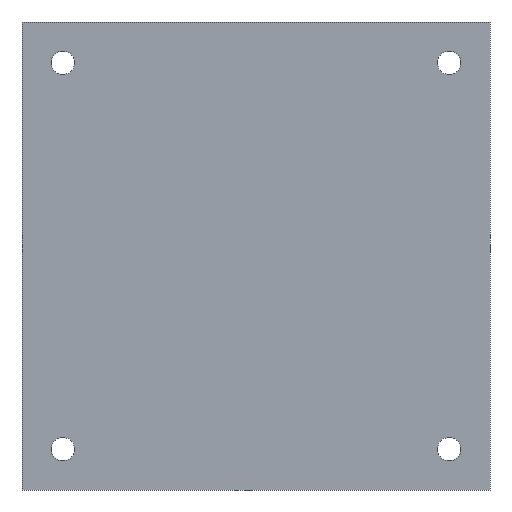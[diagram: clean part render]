
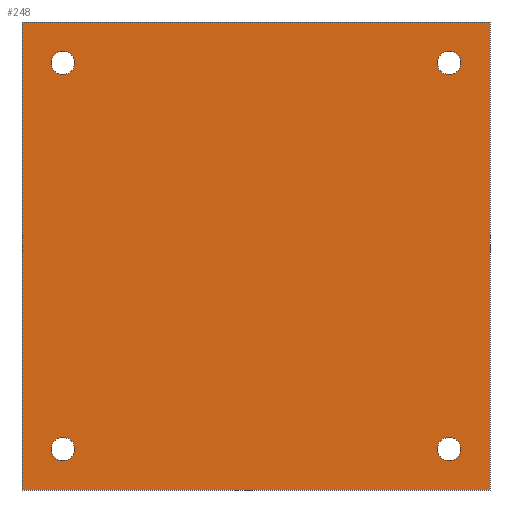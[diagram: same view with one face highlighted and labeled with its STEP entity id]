
A CAD part, front view. The second image highlights one B-rep face of the part: STEP entity #248.
In plain terms, the highlighted planar face has unit normal (0, -1, 0).
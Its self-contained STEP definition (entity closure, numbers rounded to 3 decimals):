
#1=CARTESIAN_POINT('',(-24.749,0.,24.749));
#2=DIRECTION('',(0.,-1.,0.));
#3=DIRECTION('',(1.,0.,0.));
#4=AXIS2_PLACEMENT_3D('',#1,#2,#3);
#6=CARTESIAN_POINT('',(-24.749,0.,24.749));
#7=DIRECTION('',(0.,-1.,0.));
#8=DIRECTION('',(-1.,0.,0.));
#9=AXIS2_PLACEMENT_3D('',#6,#7,#8);
#11=CARTESIAN_POINT('',(-24.749,0.,-24.749));
#12=DIRECTION('',(0.,-1.,0.));
#13=DIRECTION('',(1.,0.,0.));
#14=AXIS2_PLACEMENT_3D('',#11,#12,#13);
#16=CARTESIAN_POINT('',(-24.749,0.,-24.749));
#17=DIRECTION('',(0.,-1.,0.));
#18=DIRECTION('',(-1.,0.,0.));
#19=AXIS2_PLACEMENT_3D('',#16,#17,#18);
#21=CARTESIAN_POINT('',(24.749,0.,-24.749));
#22=DIRECTION('',(0.,-1.,0.));
#23=DIRECTION('',(1.,0.,0.));
#24=AXIS2_PLACEMENT_3D('',#21,#22,#23);
#26=CARTESIAN_POINT('',(24.749,0.,-24.749));
#27=DIRECTION('',(0.,-1.,0.));
#28=DIRECTION('',(-1.,0.,0.));
#29=AXIS2_PLACEMENT_3D('',#26,#27,#28);
#31=CARTESIAN_POINT('',(24.749,0.,24.749));
#32=DIRECTION('',(0.,-1.,0.));
#33=DIRECTION('',(1.,0.,0.));
#34=AXIS2_PLACEMENT_3D('',#31,#32,#33);
#36=CARTESIAN_POINT('',(24.749,0.,24.749));
#37=DIRECTION('',(0.,-1.,0.));
#38=DIRECTION('',(-1.,0.,0.));
#39=AXIS2_PLACEMENT_3D('',#36,#37,#38);
#41=DIRECTION('',(0.,0.,1.));
#42=VECTOR('',#41,60.);
#43=CARTESIAN_POINT('',(-30.,0.,-30.));
#44=LINE('',#43,#42);
#45=DIRECTION('',(1.,0.,0.));
#46=VECTOR('',#45,60.);
#47=CARTESIAN_POINT('',(-30.,0.,30.));
#48=LINE('',#47,#46);
#49=DIRECTION('',(0.,0.,-1.));
#50=VECTOR('',#49,60.);
#51=CARTESIAN_POINT('',(30.,0.,30.));
#52=LINE('',#51,#50);
#53=DIRECTION('',(-1.,0.,0.));
#54=VECTOR('',#53,60.);
#55=CARTESIAN_POINT('',(30.,0.,-30.));
#56=LINE('',#55,#54);
#161=CARTESIAN_POINT('',(-23.249,0.,24.749));
#162=CARTESIAN_POINT('',(-26.249,0.,24.749));
#163=VERTEX_POINT('',#161);
#164=VERTEX_POINT('',#162);
#165=CARTESIAN_POINT('',(-23.249,0.,-24.749));
#166=CARTESIAN_POINT('',(-26.249,0.,-24.749));
#167=VERTEX_POINT('',#165);
#168=VERTEX_POINT('',#166);
#169=CARTESIAN_POINT('',(26.249,0.,-24.749));
#170=CARTESIAN_POINT('',(23.249,0.,-24.749));
#171=VERTEX_POINT('',#169);
#172=VERTEX_POINT('',#170);
#173=CARTESIAN_POINT('',(26.249,0.,24.749));
#174=CARTESIAN_POINT('',(23.249,0.,24.749));
#175=VERTEX_POINT('',#173);
#176=VERTEX_POINT('',#174);
#177=CARTESIAN_POINT('',(-30.,0.,-30.));
#178=CARTESIAN_POINT('',(-30.,0.,30.));
#179=VERTEX_POINT('',#177);
#180=VERTEX_POINT('',#178);
#181=CARTESIAN_POINT('',(30.,0.,30.));
#182=VERTEX_POINT('',#181);
#183=CARTESIAN_POINT('',(30.,0.,-30.));
#184=VERTEX_POINT('',#183);
#209=CARTESIAN_POINT('',(0.,0.,0.));
#210=DIRECTION('',(0.,1.,0.));
#211=DIRECTION('',(1.,0.,0.));
#212=AXIS2_PLACEMENT_3D('',#209,#210,#211);
#213=PLANE('',#212);
#215=ORIENTED_EDGE('',*,*,#214,.T.);
#217=ORIENTED_EDGE('',*,*,#216,.T.);
#219=ORIENTED_EDGE('',*,*,#218,.T.);
#221=ORIENTED_EDGE('',*,*,#220,.T.);
#222=EDGE_LOOP('',(#215,#217,#219,#221));
#223=FACE_OUTER_BOUND('',#222,.F.);
#225=ORIENTED_EDGE('',*,*,#224,.T.);
#227=ORIENTED_EDGE('',*,*,#226,.T.);
#228=EDGE_LOOP('',(#225,#227));
#229=FACE_BOUND('',#228,.F.);
#231=ORIENTED_EDGE('',*,*,#230,.T.);
#233=ORIENTED_EDGE('',*,*,#232,.T.);
#234=EDGE_LOOP('',(#231,#233));
#235=FACE_BOUND('',#234,.F.);
#237=ORIENTED_EDGE('',*,*,#236,.T.);
#239=ORIENTED_EDGE('',*,*,#238,.T.);
#240=EDGE_LOOP('',(#237,#239));
#241=FACE_BOUND('',#240,.F.);
#243=ORIENTED_EDGE('',*,*,#242,.T.);
#245=ORIENTED_EDGE('',*,*,#244,.T.);
#246=EDGE_LOOP('',(#243,#245));
#247=FACE_BOUND('',#246,.F.);
#248=ADVANCED_FACE('',(#223,#229,#235,#241,#247),#213,.F.);
#5=CIRCLE('',#4,1.5);
#10=CIRCLE('',#9,1.5);
#15=CIRCLE('',#14,1.5);
#20=CIRCLE('',#19,1.5);
#25=CIRCLE('',#24,1.5);
#30=CIRCLE('',#29,1.5);
#35=CIRCLE('',#34,1.5);
#40=CIRCLE('',#39,1.5);
#214=EDGE_CURVE('',#179,#180,#44,.T.);
#216=EDGE_CURVE('',#180,#182,#48,.T.);
#218=EDGE_CURVE('',#182,#184,#52,.T.);
#220=EDGE_CURVE('',#184,#179,#56,.T.);
#224=EDGE_CURVE('',#167,#168,#15,.T.);
#226=EDGE_CURVE('',#168,#167,#20,.T.);
#230=EDGE_CURVE('',#171,#172,#25,.T.);
#232=EDGE_CURVE('',#172,#171,#30,.T.);
#236=EDGE_CURVE('',#175,#176,#35,.T.);
#238=EDGE_CURVE('',#176,#175,#40,.T.);
#242=EDGE_CURVE('',#163,#164,#5,.T.);
#244=EDGE_CURVE('',#164,#163,#10,.T.);
